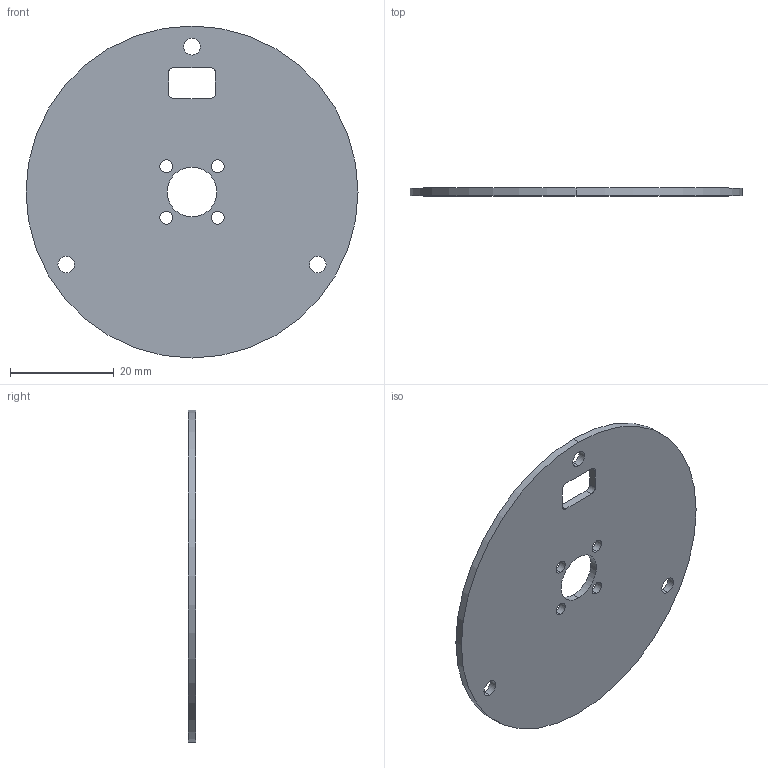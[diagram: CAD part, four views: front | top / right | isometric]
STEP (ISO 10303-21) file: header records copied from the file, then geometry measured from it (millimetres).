
FILE_DESCRIPTION (( 'STEP AP214' ), '1' );
FILE_NAME ('30x Small bottom plate.STEP', '2024-02-28T19:57:14', ( '' ), ( '' ), 'SwSTEP 2.0', 'SolidWorks 2023', '' );
FILE_SCHEMA (( 'AUTOMOTIVE_DESIGN' ));
Length unit declared in the file: millimetre
Products named in the file (1): 30x Small bottom plate
Bounding box: 64 x 1.5 x 64 mm (x, y, z)
Volume: 4571.6 mm3; surface area: 6577 mm2
Topology: 1 solids, 1 shells, 28 faces, 78 edges, 52 vertices
Faces by surface type: cylinder 22, plane 6
Entity records: 985 total; most frequent: DIRECTION 180, CARTESIAN_POINT 159, ORIENTED_EDGE 156, EDGE_CURVE 78, AXIS2_PLACEMENT_3D 73, VERTEX_POINT 52, EDGE_LOOP 46, CIRCLE 44
